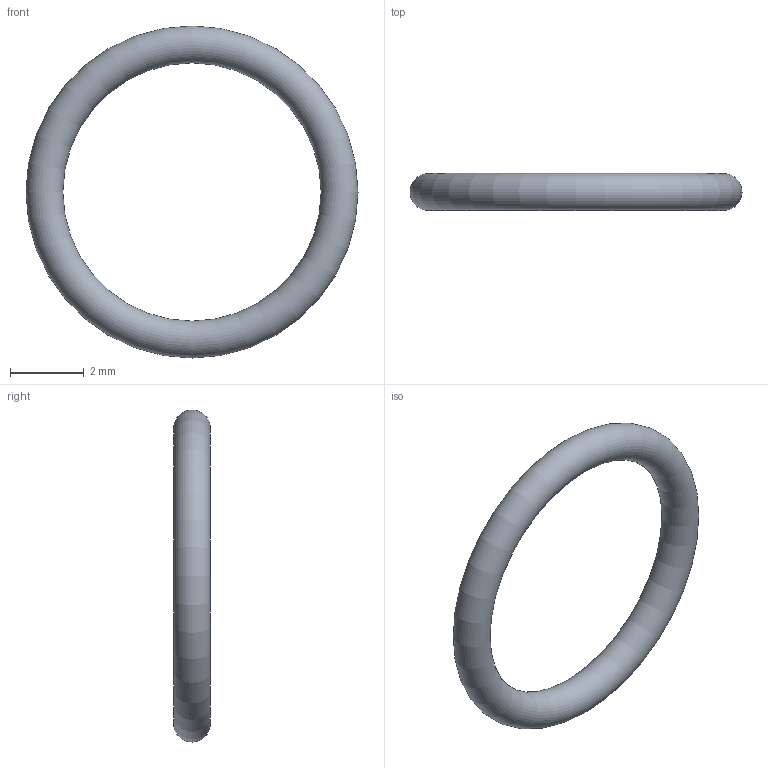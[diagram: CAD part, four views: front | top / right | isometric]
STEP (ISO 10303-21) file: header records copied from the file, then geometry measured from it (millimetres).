
FILE_DESCRIPTION( ( 'STEP AP203' ), '1' );
FILE_NAME( 'C:/Temp/Ganter_Step_05_03_2020/data/3_5/or638/O-Ring OR638-7.00-1.00-70.stp', '2020-03-12T13:44:15', ( 'License CC BY-ND 4.0' ), ( 'CADENAS' ), ' ', 'PARTsolutions', ' ' );
FILE_SCHEMA( ( 'CONFIG_CONTROL_DESIGN' ) );
Length unit declared in the file: millimetre
Products named in the file (1): _O-Ring OR638-7.00-1.00-70
Bounding box: 9 x 1 x 9 mm (x, y, z)
Volume: 19.7 mm3; surface area: 79 mm2
Topology: 1 solids, 1 shells, 1 faces, 2 edges, 1 vertices
Faces by surface type: torus 1
Entity records: 62 total; most frequent: CC_DESIGN_PERSON_AND_ORGANIZATION_ASSIGNMENT 5, PERSON_AND_ORGANIZATION_ROLE 4, DIRECTION 4, CARTESIAN_POINT 3, DATE_TIME_ROLE 2, CC_DESIGN_DATE_AND_TIME_ASSIGNMENT 2, AXIS2_PLACEMENT_3D 2, DIMENSIONAL_EXPONENTS 2
